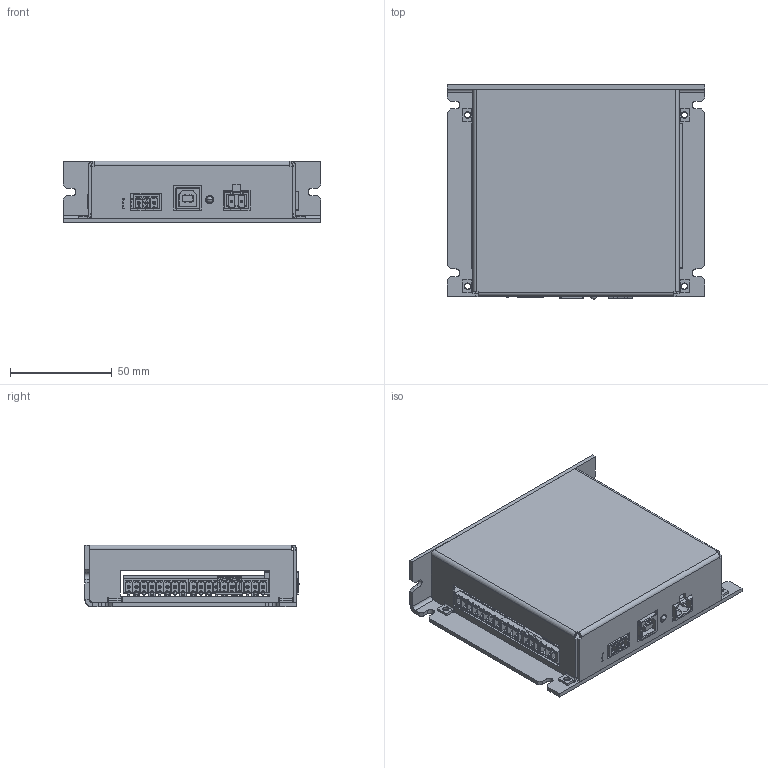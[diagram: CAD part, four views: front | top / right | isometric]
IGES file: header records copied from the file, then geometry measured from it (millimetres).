
Start section: SolidWorks IGES file using analytic representation for surfaces
Global section: file name: C:\Users\Engineering\Documents\Drawing\CAD\Arcus Enclosure\PMX-Assembly\PMX-2ED\PMX-2ED-SA-external.IGS; native system: SolidWorks 2011; preprocessor: SolidWorks 2011; author: Engineering; date: 110801.100247; units: inch
Bounding box: 127 x 105.41 x 30.48 mm (x, y, z)
Surface area: 92012.2 mm2 (no closed solid volume)
Topology: 0 solids, 0 shells, 4339 faces, 29096 edges, 29017 vertices
Faces by surface type: bspline 3654, revolution 685
